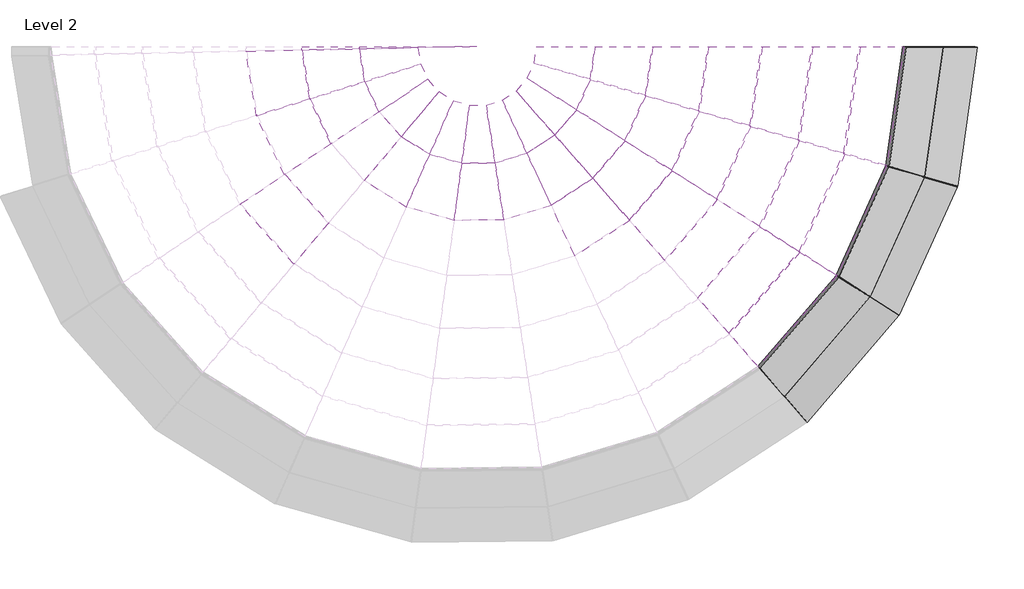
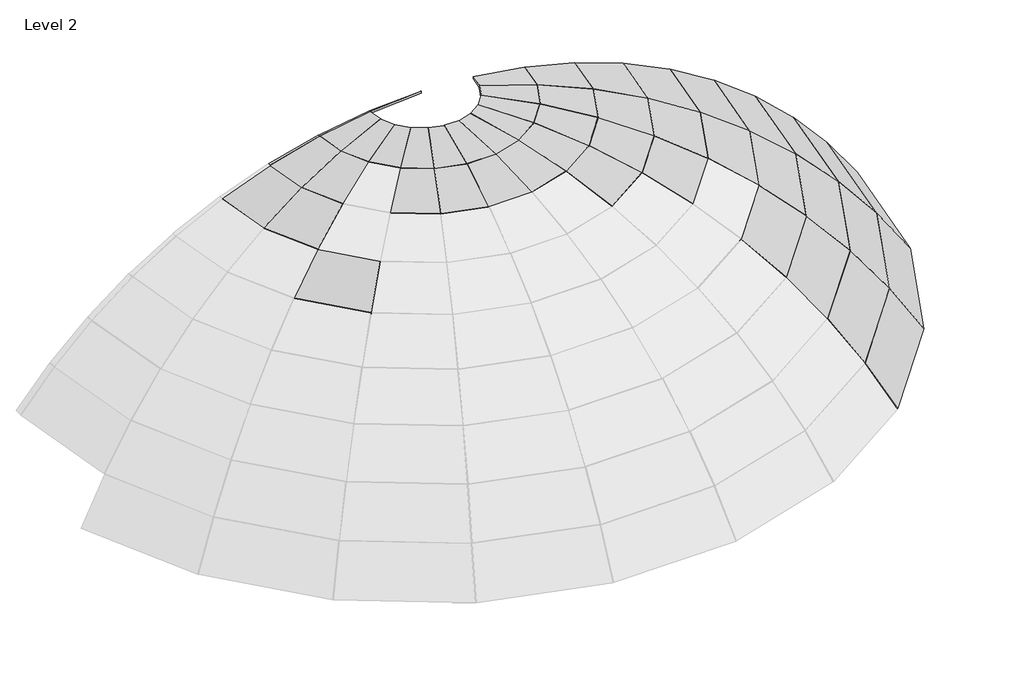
# One storey, part 2 of 2: 48 plates.
"""IFC4 building model written with IfcOpenShell, lengths in millimetres."""

import ifcopenshell
import ifcopenshell.guid

model = None  # the IFC model being written
_history = None  # IfcOwnerHistory: only IFC2X3 demands one
_inside = {}  # id of a spatial element -> (the spatial element, [elements in it])
_under = {}  # id of a project, library or spatial element -> (it, [spatial elements below it])
_declared = {}  # id of a project -> (the project, [libraries it declares])
_typed = {}  # id of a type object -> (the type object, [elements of that type])
_made_of = {}  # id of a material, layer set ... -> (it, [elements and type objects made of it])


def new_model(schema):
    """Start an empty IFC model of exactly this schema.

    Asked for "IFC4X3", IfcOpenShell would pick the latest addendum, in which some entities
    have other attributes; the version numbers below select the first issue.
    IFC2X3 requires an IfcOwnerHistory on every rooted entity: one is made here for all.
    """
    global model, _history
    if schema == "IFC4X3":
        model = ifcopenshell.file(schema_version=(4, 3, 0, 0))
    else:
        model = ifcopenshell.file(schema=schema)
    _inside.clear()
    _under.clear()
    _declared.clear()
    _typed.clear()
    _made_of.clear()
    _history = None
    if model.schema == "IFC2X3":
        org = make("IfcOrganization", Name="unknown")
        user = make(
            "IfcPersonAndOrganization",
            ThePerson=make("IfcPerson", FamilyName="unknown"),
            TheOrganization=org,
        )
        app = make(
            "IfcApplication",
            ApplicationDeveloper=org,
            Version="unknown",
            ApplicationFullName="unknown",
            ApplicationIdentifier="unknown",
        )
        _history = make(
            "IfcOwnerHistory",
            OwningUser=user,
            OwningApplication=app,
            ChangeAction="ADDED",
            CreationDate=0,
        )
    return model


def make(cls, **values):
    """One entity of the class cls with the attributes given. An attribute that is None is left unset."""
    return model.create_entity(
        cls, **{name: value for name, value in values.items() if value is not None}
    )


def rooted(cls, **values):
    """An entity with a GlobalId (a new one), such as an element, a storey or a relation."""
    return make(cls, GlobalId=ifcopenshell.guid.new(), OwnerHistory=_history, **values)


def si_unit(unit_type, name, prefix=None):
    """IfcSIUnit, for example si_unit("LENGTHUNIT", "METRE", prefix="MILLI")."""
    return make("IfcSIUnit", UnitType=unit_type, Prefix=prefix, Name=name)


def assignment(units):
    """IfcUnitAssignment: the units of a project."""
    return None if units is None else make("IfcUnitAssignment", Units=units)


def point(xyz):
    """IfcCartesianPoint."""
    return None if xyz is None else make("IfcCartesianPoint", Coordinates=xyz)


def direction(xyz):
    """IfcDirection."""
    return None if xyz is None else make("IfcDirection", DirectionRatios=xyz)


def frame(location, z_axis=None, x_axis=None):
    """IfcAxis2Placement3D, a coordinate frame: its origin and axes. An axis left out is left unset."""
    return make(
        "IfcAxis2Placement3D",
        Location=point(location),
        Axis=direction(z_axis),
        RefDirection=direction(x_axis),
    )


def origin():
    """The frame at (0, 0, 0) with its axes left unset."""
    return frame((0.0, 0.0, 0.0))


def place(relative_to, where):
    """IfcLocalPlacement: puts the frame where relative to a parent placement (None: the world)."""
    return make(
        "IfcLocalPlacement", PlacementRelTo=relative_to, RelativePlacement=where
    )


def context(
    kind, dimensions, precision=None, world=None, true_north=None, identifier=None
):
    """IfcGeometricRepresentationContext, for example the 3D "Model" context."""
    return make(
        "IfcGeometricRepresentationContext",
        ContextIdentifier=identifier,
        ContextType=kind,
        CoordinateSpaceDimension=dimensions,
        Precision=precision,
        WorldCoordinateSystem=world,
        TrueNorth=true_north,
    )


def project(units=None, contexts=None):
    """IfcProject with its units and contexts."""
    return rooted(
        "IfcProject",
        Name="project",
        RepresentationContexts=contexts,
        UnitsInContext=assignment(units),
    )


def spatial(cls, under=None, at=None, **own):
    """A site, building, storey or space (cls), placed at a placement, below another one or the project."""
    s = rooted(cls, ObjectPlacement=at, **own)
    if under is not None:
        _under.setdefault(under.id(), (under, []))[1].append(s)
    return s


def polyline(points):
    """IfcPolyline through the points."""
    return make("IfcPolyline", Points=[point(p) for p in points])


def outline(outer, holes=None, kind="AREA"):
    """IfcArbitraryClosedProfileDef: a profile drawn as a closed curve; with holes, ...WithVoids."""
    if holes is None:
        return make("IfcArbitraryClosedProfileDef", ProfileType=kind, OuterCurve=outer)
    return make(
        "IfcArbitraryProfileDefWithVoids",
        ProfileType=kind,
        OuterCurve=outer,
        InnerCurves=holes,
    )


def extrude(swept, where, along, depth):
    """IfcExtrudedAreaSolid: the profile swept, set in the frame where, extruded along a direction by depth."""
    return make(
        "IfcExtrudedAreaSolid",
        SweptArea=swept,
        Position=where,
        ExtrudedDirection=direction(along),
        Depth=depth,
    )


def shape(context_of_items, identifier, shape_type, items):
    """IfcShapeRepresentation: the items that make up one representation, for example the "Body"."""
    return make(
        "IfcShapeRepresentation",
        ContextOfItems=context_of_items,
        RepresentationIdentifier=identifier,
        RepresentationType=shape_type,
        Items=items,
    )


def source(mapping_origin, context_of_items, identifier, shape_type, items):
    """IfcRepresentationMap: a shape defined once, which mapped items show again and again."""
    return make(
        "IfcRepresentationMap",
        MappingOrigin=mapping_origin,
        MappedRepresentation=shape(context_of_items, identifier, shape_type, items),
    )


def transform(
    local_origin,
    x_axis=None,
    y_axis=None,
    z_axis=None,
    scale=None,
    scale2=None,
    scale3=None,
    uniform=True,
):
    """IfcCartesianTransformationOperator3D, or its non-uniform kind. x_axis, y_axis, z_axis: its Axis1, 2, 3."""
    if uniform:
        return make(
            "IfcCartesianTransformationOperator3D",
            Axis1=direction(x_axis),
            Axis2=direction(y_axis),
            LocalOrigin=point(local_origin),
            Scale=scale,
            Axis3=direction(z_axis),
        )
    return make(
        "IfcCartesianTransformationOperator3DnonUniform",
        Axis1=direction(x_axis),
        Axis2=direction(y_axis),
        LocalOrigin=point(local_origin),
        Scale=scale,
        Axis3=direction(z_axis),
        Scale2=scale2,
        Scale3=scale3,
    )


def mapped(mapping_source, mapping_target):
    """IfcMappedItem: shows the shape of a source again, moved by a transform."""
    return make(
        "IfcMappedItem", MappingSource=mapping_source, MappingTarget=mapping_target
    )


def made_of(thing, what):
    """Note that an element or type object is made of a material, layer set ...; save() writes the relation."""
    if what is not None:
        _made_of.setdefault(what.id(), (what, []))[1].append(thing)
    return thing


def element(
    cls,
    number,
    at=None,
    inside=None,
    cuts=None,
    type_object=None,
    material=None,
    context=None,
    identifier="Body",
    shape_type=None,
    held_by="IfcProductDefinitionShape",
    body=None,
    shapes=None,
    **own,
):
    """One element of the class cls, such as IfcWall. Its Tag is "e" and its number.

    at: its placement. inside: the storey or other place that contains it. cuts: it is an
    opening in that element (IfcRelVoidsElement). A single representation is given by context,
    identifier, shape_type and body (its items); several are given by shapes. held_by: the class
    of the entity that holds the representations. save() writes the other relations.
    """
    e = rooted(cls, Tag="e%d" % number, ObjectPlacement=at, **own)
    if body is not None:
        shapes = [shape(context, identifier, shape_type, body)]
    if shapes is not None:
        e.Representation = make(held_by, Representations=shapes)
    if inside is not None:
        _inside.setdefault(inside.id(), (inside, []))[1].append(e)
    if cuts is not None:
        rooted(
            "IfcRelVoidsElement", RelatingBuildingElement=cuts, RelatedOpeningElement=e
        )
    if type_object is not None:
        _typed.setdefault(type_object.id(), (type_object, []))[1].append(e)
    return made_of(e, material)


def aggregate(whole, parts):
    """IfcRelAggregates: a whole, such as a stair, and the parts it consists of."""
    return rooted("IfcRelAggregates", RelatingObject=whole, RelatedObjects=parts)


def save(model, path):
    """Write the relations noted so far, then the file.

    IfcRelAggregates (storeys below a building ...), IfcRelContainedInSpatialStructure (elements
    in a storey), IfcRelDefinesByType, IfcRelAssociatesMaterial and IfcRelDeclares: one each for
    every whole, place, type object, material and project.
    """
    for whole, parts in _under.values():
        aggregate(whole, parts)
    for where, things in _inside.values():
        rooted(
            "IfcRelContainedInSpatialStructure",
            RelatedElements=things,
            RelatingStructure=where,
        )
    for kind, things in _typed.values():
        rooted("IfcRelDefinesByType", RelatedObjects=things, RelatingType=kind)
    for what, things in _made_of.values():
        rooted("IfcRelAssociatesMaterial", RelatedObjects=things, RelatingMaterial=what)
    for by, libraries in _declared.values():
        rooted("IfcRelDeclares", RelatingContext=by, RelatedDefinitions=libraries)
    model.write(path)


def system_panel_glazed_b7e76020(model_context):
    return source(origin(), model_context, "Body", "SweptSolid", [
        extrude(outline(polyline([(0.0, -86.1026283), (0.0, 86.1026283), (603.610826, 171.3442302), (603.610826, -171.3442302), (0.0, -86.1026283)])), frame((0.0, -44.45, 0.0), z_axis=(0.0, 1.0, 0.0), x_axis=(0.0, 0.0, 1.0)), (0.0, 0.0, 1.0), 25.4),
    ])


def system_panel_glazed_541d1e19(model_context):
    return source(origin(), model_context, "Body", "SweptSolid", [
        extrude(outline(polyline([(0.0, -6.0448817), (0.0, 6.0448817), (609.5706248, 12.0293146), (609.5706248, -12.0293146), (0.0, -6.0448817)])), frame((0.0, -44.45, 0.0), z_axis=(0.0, 1.0, 0.0), x_axis=(0.0, 0.0, 1.0)), (0.0, 0.0, 1.0), 25.4),
    ])


def system_panel_glazed_13021561(model_context):
    return source(origin(), model_context, "Body", "SweptSolid", [
        extrude(outline(polyline([(0.0, -171.3442302), (0.0, 171.3442302), (603.850318, 254.8723899), (603.850318, -254.8723899), (0.0, -171.3442302)])), frame((0.0, -44.45, 0.0), z_axis=(0.0, 1.0, 0.0), x_axis=(0.0, 0.0, 1.0)), (0.0, 0.0, 1.0), 25.4),
    ])


def system_panel_glazed_939abe30(model_context):
    return source(origin(), model_context, "Body", "SweptSolid", [
        extrude(outline(polyline([(0.0, -12.0293146), (0.0, 12.0293146), (609.5717939, 17.8934544), (609.5717939, -17.8934544), (0.0, -12.0293146)])), frame((0.0, -44.45, 0.0), z_axis=(0.0, 1.0, 0.0), x_axis=(0.0, 0.0, 1.0)), (0.0, 0.0, 1.0), 25.4),
    ])


def system_panel_glazed_061b48de(model_context):
    return source(origin(), model_context, "Body", "SweptSolid", [
        extrude(outline(polyline([(0.0, -254.8723899), (0.0, 254.8723899), (604.1973941, 335.8518257), (604.1973941, -335.8518257), (0.0, -254.8723899)])), frame((0.0, -44.45, 0.0), z_axis=(0.0, 1.0, 0.0), x_axis=(0.0, 0.0, 1.0)), (0.0, 0.0, 1.0), 25.4),
    ])


def system_panel_glazed_37435722(model_context):
    return source(origin(), model_context, "Body", "SweptSolid", [
        extrude(outline(polyline([(0.0, -335.8518257), (0.0, 335.8518257), (604.6380348, 413.4727432), (604.6380348, -413.4727432), (0.0, -335.8518257)])), frame((0.0, -44.45, 0.0), z_axis=(0.0, 1.0, 0.0), x_axis=(0.0, 0.0, 1.0)), (0.0, 0.0, 1.0), 25.4),
    ])


def system_panel_glazed_72d94749(model_context):
    return source(origin(), model_context, "Body", "SweptSolid", [
        extrude(outline(polyline([(0.0, -413.4727432), (0.0, 413.4727432), (605.154476, 486.9589333), (605.154476, -486.9589333), (0.0, -413.4727432)])), frame((0.0, -44.45, 0.0), z_axis=(0.0, 1.0, 0.0), x_axis=(0.0, 0.0, 1.0)), (0.0, 0.0, 1.0), 25.4),
    ])


def system_panel_glazed_bedb6522(model_context):
    return source(origin(), model_context, "Body", "SweptSolid", [
        extrude(outline(polyline([(0.0, -486.9589333), (0.0, 486.9589333), (605.7259464, 555.575534), (605.7259464, -555.575534), (0.0, -486.9589333)])), frame((0.0, -44.45, 0.0), z_axis=(0.0, 1.0, 0.0), x_axis=(0.0, 0.0, 1.0)), (0.0, 0.0, 1.0), 25.4),
    ])


def system_panel_glazed_fface929(model_context):
    return source(origin(), model_context, "Body", "SweptSolid", [
        extrude(outline(polyline([(0.0, -555.575534), (0.0, 555.575534), (606.3295224, 618.6363794), (606.3295224, -618.6363794), (0.0, -555.575534)])), frame((0.0, -44.45, 0.0), z_axis=(0.0, 1.0, 0.0), x_axis=(0.0, 0.0, 1.0)), (0.0, 0.0, 1.0), 25.4),
    ])


def system_panel_glazed_fbbb24ac(model_context):
    return source(origin(), model_context, "Body", "SweptSolid", [
        extrude(outline(polyline([(0.0, -618.6363794), (0.0, 618.6363794), (606.9410625, 675.510861), (606.9410625, -675.510861), (0.0, -618.6363794)])), frame((0.0, -44.45, 0.0), z_axis=(0.0, 1.0, 0.0), x_axis=(0.0, 0.0, 1.0)), (0.0, 0.0, 1.0), 25.4),
    ])


def system_panel_glazed_294e71e8(model_context):
    return source(origin(), model_context, "Body", "SweptSolid", [
        extrude(outline(polyline([(0.0, -675.510861), (0.0, 675.510861), (607.5361787, 725.630234), (607.5361787, -725.630234), (0.0, -675.510861)])), frame((0.0, -44.45, 0.0), z_axis=(0.0, 1.0, 0.0), x_axis=(0.0, 0.0, 1.0)), (0.0, 0.0, 1.0), 25.4),
    ])


def system_panel_glazed_e5d92528(model_context):
    return source(origin(), model_context, "Body", "SweptSolid", [
        extrude(outline(polyline([(0.0, -303.4116416), (12.053882, 303.5318259), (12.089166, -303.5318259), (0.0, -303.4116416)])), frame((0.0, -44.45, 0.0), z_axis=(0.0, 1.0, 0.0), x_axis=(0.0, 0.0, 1.0)), (0.0, 0.0, 1.0), 25.4),
    ])


model = new_model("IFC4")

# Units and contexts
model_context = context("Model", 3, world=origin())
ifc_project = project(units=[si_unit("LENGTHUNIT", "METRE", prefix="MILLI")], contexts=[model_context])

# Site, building, storey
site = spatial("IfcSite", under=ifc_project)
building = spatial("IfcBuilding", under=site)
storey = spatial("IfcBuildingStorey", under=building, Name="Level 2", Elevation=3048.0)

# Plates
placement = place(None, origin())
system_panel_glazed_shape = system_panel_glazed_b7e76020(model_context)
element("IfcPlate", 1, ObjectType="System Panel : Glazed", at=placement, inside=storey, context=model_context, shape_type="MappedRepresentation", body=[
    mapped(system_panel_glazed_shape, transform((6382.7257992, 3516.9033936, 6065.52), x_axis=(-0.14142135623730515, -0.9899494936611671, 0.0), y_axis=(-0.14946591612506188, 0.021352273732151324, -0.988536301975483), z_axis=(0.9786010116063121, -0.139800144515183, -0.15098337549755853))),
])
element("IfcPlate", 2, ObjectType="System Panel : Glazed", at=placement, inside=storey, context=model_context, shape_type="MappedRepresentation", body=[
    mapped(system_panel_glazed_shape, transform((6334.9929374, 3353.2478674, 6065.52), x_axis=(-0.4129503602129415, -0.9107535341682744, 0.0), y_axis=(-0.13750864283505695, 0.06234863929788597, -0.9885363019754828), z_axis=(0.9003129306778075, -0.4082164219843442, -0.15098337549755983))),
])
element("IfcPlate", 3, ObjectType="System Panel : Glazed", at=placement, inside=storey, context=model_context, shape_type="MappedRepresentation", body=[
    mapped(system_panel_glazed_shape, transform((6243.3458427, 3209.5037635, 6065.52), x_axis=(-0.6514433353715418, -0.7586972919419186, 0.0), y_axis=(-0.11455067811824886, 0.09835711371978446, -0.9885363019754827), z_axis=(0.7499998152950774, -0.6439753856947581, -0.15098337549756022))),
])
element("IfcPlate", 4, ObjectType="System Panel : Glazed", at=placement, inside=storey, context=model_context, shape_type="MappedRepresentation", body=[
    mapped(system_panel_glazed_shape, transform((6115.1162827, 3097.1706103, 6065.52), x_axis=(-0.8378208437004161, -0.5459452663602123, 0.0), y_axis=(-0.08242865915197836, 0.12649701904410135, -0.9885363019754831), z_axis=(0.5396867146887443, -0.8282163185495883, -0.15098337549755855))),
])
element("IfcPlate", 5, ObjectType="System Panel : Glazed", at=placement, inside=storey, context=model_context, shape_type="MappedRepresentation", body=[
    mapped(system_panel_glazed_shape, transform((5960.5626222, 3025.2350601, 6065.52), x_axis=(-0.9571726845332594, -0.2895176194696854, 0.0), y_axis=(-0.04371234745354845, 0.1445171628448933, -0.9885363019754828), z_axis=(0.28619867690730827, -0.9461999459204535, -0.15098337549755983))),
])
element("IfcPlate", 6, ObjectType="System Panel : Glazed", at=placement, inside=storey, context=model_context, shape_type="MappedRepresentation", body=[
    mapped(system_panel_glazed_shape, transform((5792.0491541, 2999.4519567, 6065.52), x_axis=(-0.999950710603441, -0.009928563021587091, 0.0), y_axis=(-0.0014990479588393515, 0.15097593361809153, -0.9885363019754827), z_axis=(0.009814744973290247, -0.9884875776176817, -0.15098337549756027))),
])
element("IfcPlate", 7, ObjectType="System Panel : Glazed", at=placement, inside=storey, context=model_context, shape_type="MappedRepresentation", body=[
    mapped(system_panel_glazed_shape, transform((5623.0569558, 3021.8839486, 6065.52), x_axis=(-0.962732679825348, 0.27045477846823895, 0.0), y_axis=(0.040834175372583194, 0.14535662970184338, -0.9885363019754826), z_axis=(-0.26735436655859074, -0.9516962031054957, -0.15098337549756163))),
])
element("IfcPlate", 8, ObjectType="System Panel : Glazed", at=placement, inside=storey, context=model_context, shape_type="MappedRepresentation", body=[
    mapped(system_panel_glazed_shape, transform((5467.1054031, 3090.7364763, 6065.52), x_axis=(-0.8484960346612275, 0.5292017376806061, 0.0), y_axis=(0.07990066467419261, 0.128108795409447, -0.9885363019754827), z_axis=(-0.5231351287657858, -0.8387691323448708, -0.15098337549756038))),
])
element("IfcPlate", 9, ObjectType="System Panel : Glazed", at=placement, inside=storey, context=model_context, shape_type="MappedRepresentation", body=[
    mapped(system_panel_glazed_shape, transform((5336.6706203, 3200.5013377, 6065.52), x_axis=(-0.6663797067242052, 0.7456125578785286, 0.0), y_axis=(0.11257510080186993, 0.10061225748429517, -0.9885363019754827), z_axis=(-0.7370650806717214, -0.6587405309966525, -0.1509833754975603))),
])
element("IfcPlate", 10, ObjectType="System Panel : Glazed", at=placement, inside=storey, context=model_context, shape_type="MappedRepresentation", body=[
    mapped(system_panel_glazed_shape, transform((5242.18739, 3342.3973438, 6065.52), x_axis=(-0.43095300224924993, 0.9023743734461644, 0.0), y_axis=(0.1362435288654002, 0.06506673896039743, -0.9885363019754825), z_axis=(-0.8920298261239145, -0.42601268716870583, -0.15098337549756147))),
])
element("IfcPlate", 11, ObjectType="System Panel : Glazed", at=placement, inside=storey, context=model_context, shape_type="MappedRepresentation", body=[
    mapped(system_panel_glazed_shape, transform((5191.2143706, 3505.0728142, 6065.52), x_axis=(-0.1610500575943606, 0.9869462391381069, 0.0), y_axis=(0.1490124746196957, 0.02431588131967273, -0.9885363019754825), z_axis=(-0.9756321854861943, -0.1592038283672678, -0.1509833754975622))),
])
system_panel_glazed_2_shape = system_panel_glazed_541d1e19(model_context)
element("IfcPlate", 12, ObjectType="System Panel : Glazed", at=placement, inside=storey, context=model_context, shape_type="MappedRepresentation", body=[
    mapped(system_panel_glazed_2_shape, transform((5177.2875203, 3596.0960631, 6065.52), x_axis=(-0.009928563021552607, 0.9999507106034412, 0.0), y_axis=(0.14949983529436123, 0.0014843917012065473, -0.9887606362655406), z_axis=(-0.9887119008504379, -0.009816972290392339, -0.14950720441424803))),
])
system_panel_glazed_3_shape = system_panel_glazed_13021561(model_context)
element("IfcPlate", 13, ObjectType="System Panel : Glazed", at=placement, inside=storey, context=model_context, shape_type="MappedRepresentation", body=[
    mapped(system_panel_glazed_3_shape, transform((6973.4199642, 3432.5185129, 5974.3848), x_axis=(-0.1414213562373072, -0.989949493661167, 0.0), y_axis=(-0.24735043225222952, 0.035335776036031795, -0.9682815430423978), z_axis=(0.9585498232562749, -0.13693568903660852, -0.24986166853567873))),
])
element("IfcPlate", 14, ObjectType="System Panel : Glazed", at=placement, inside=storey, context=model_context, shape_type="MappedRepresentation", body=[
    mapped(system_panel_glazed_3_shape, transform((6878.4315691, 3106.8440157, 5974.3848), x_axis=(-0.4129503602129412, -0.9107535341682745, 0.0), y_axis=(-0.22756239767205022, 0.10318046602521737, -0.9682815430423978), z_axis=(0.8818658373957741, -0.39985221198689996, -0.24986166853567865))),
])
element("IfcPlate", 15, ObjectType="System Panel : Glazed", at=placement, inside=storey, context=model_context, shape_type="MappedRepresentation", body=[
    mapped(system_panel_glazed_3_shape, transform((6696.0538507, 2820.793249, 5974.3848), x_axis=(-0.6514433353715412, -0.758697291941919, 0.0), y_axis=(-0.18956937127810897, 0.16277071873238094, -0.9682815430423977), z_axis=(0.7346325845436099, -0.6307805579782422, -0.24986166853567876))),
])
element("IfcPlate", 16, ObjectType="System Panel : Glazed", at=placement, inside=storey, context=model_context, shape_type="MappedRepresentation", body=[
    mapped(system_panel_glazed_3_shape, transform((6440.8770264, 2597.2502742, 5974.3848), x_axis=(-0.837820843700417, -0.5459452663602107, 0.0), y_axis=(-0.13641079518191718, 0.2093393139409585, -0.9682815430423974), z_axis=(0.5286287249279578, -0.8112464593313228, -0.24986166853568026))),
])
element("IfcPlate", 17, ObjectType="System Panel : Glazed", at=placement, inside=storey, context=model_context, shape_type="MappedRepresentation", body=[
    mapped(system_panel_glazed_3_shape, transform((6133.315242, 2454.0985291, 5974.3848), x_axis=(-0.9571726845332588, -0.2895176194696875, 0.0), y_axis=(-0.07233935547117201, 0.23916076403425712, -0.9682815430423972), z_axis=(0.2803345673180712, -0.9268126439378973, -0.24986166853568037))),
])
element("IfcPlate", 18, ObjectType="System Panel : Glazed", at=placement, inside=storey, context=model_context, shape_type="MappedRepresentation", body=[
    mapped(system_panel_glazed_3_shape, transform((5797.9734404, 2402.7901535, 5974.3848), x_axis=(-0.9999507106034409, -0.009928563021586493, 0.0), y_axis=(-0.0024807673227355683, 0.24984935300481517, -0.9682815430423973), z_axis=(0.009613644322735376, -0.9682338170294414, -0.24986166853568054))),
])
element("IfcPlate", 19, ObjectType="System Panel : Glazed", at=placement, inside=storey, context=model_context, shape_type="MappedRepresentation", body=[
    mapped(system_panel_glazed_3_shape, transform((5461.6789657, 2447.4298173, 5974.3848), x_axis=(-0.9627326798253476, 0.2704547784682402, 0.0), y_axis=(0.06757628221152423, 0.2405499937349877, -0.9682815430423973), z_axis=(-0.2618763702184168, -0.9321962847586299, -0.24986166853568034))),
])
element("IfcPlate", 20, ObjectType="System Panel : Glazed", at=placement, inside=storey, context=model_context, shape_type="MappedRepresentation", body=[
    mapped(system_panel_glazed_3_shape, transform((5151.3353759, 2584.4463475, 5974.3848), x_axis=(-0.8484960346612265, 0.529201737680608, 0.0), y_axis=(0.13222722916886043, 0.2120066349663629, -0.9682815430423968), z_axis=(-0.5124162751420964, -0.8215830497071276, -0.24986166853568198))),
])
element("IfcPlate", 21, ObjectType="System Panel : Glazed", at=placement, inside=storey, context=model_context, shape_type="MappedRepresentation", body=[
    mapped(system_panel_glazed_3_shape, transform((4703.7485298, 3085.2514738, 5974.3848), x_axis=(-0.43095300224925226, 0.9023743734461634, 0.0), y_axis=(0.22546876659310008, 0.10767863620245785, -0.9682815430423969), z_axis=(-0.873752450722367, -0.41728383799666, -0.24986166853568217))),
])
element("IfcPlate", 22, ObjectType="System Panel : Glazed", at=placement, inside=storey, context=model_context, shape_type="MappedRepresentation", body=[
    mapped(system_panel_glazed_3_shape, transform((4602.3122212, 3408.9756599, 5974.3848), x_axis=(-0.16105005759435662, 0.9869462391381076, 0.0), y_axis=(0.24660003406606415, 0.04024023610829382, -0.9682815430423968), z_axis=(-0.955641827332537, -0.15594179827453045, -0.24986166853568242))),
])
system_panel_glazed_4_shape = system_panel_glazed_939abe30(model_context)
element("IfcPlate", 23, ObjectType="System Panel : Glazed", at=placement, inside=storey, context=model_context, shape_type="MappedRepresentation", body=[
    mapped(system_panel_glazed_4_shape, transform((4574.5977892, 3590.1119252, 5974.3848), x_axis=(-0.009928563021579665, 0.999950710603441, 0.0), y_axis=(0.2475042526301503, 0.002457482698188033, -0.9688836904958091), z_axis=(-0.9688359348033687, -0.009619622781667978, -0.24751645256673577))),
])
system_panel_glazed_5_shape = system_panel_glazed_061b48de(model_context)
element("IfcPlate", 24, ObjectType="System Panel : Glazed", at=placement, inside=storey, context=model_context, shape_type="MappedRepresentation", body=[
    mapped(system_panel_glazed_5_shape, transform((7552.2405797, 3349.8298536, 5823.505752), x_axis=(-0.14142135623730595, -0.989949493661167, 0.0), y_axis=(-0.3426237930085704, 0.04894625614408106, -0.9381967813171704), z_axis=(0.9287674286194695, -0.1326810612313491, -0.3461022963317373))),
])
element("IfcPlate", 25, ObjectType="System Panel : Glazed", at=placement, inside=storey, context=model_context, shape_type="MappedRepresentation", body=[
    mapped(system_panel_glazed_5_shape, transform((7410.9465355, 2865.3931304, 5823.505752), x_axis=(-0.41295036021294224, -0.910753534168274, 0.0), y_axis=(-0.3152138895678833, 0.14292306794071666, -0.938196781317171), z_axis=(0.8544660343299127, -0.38742869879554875, -0.34610229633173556))),
])
element("IfcPlate", 26, ObjectType="System Panel : Glazed", at=placement, inside=storey, context=model_context, shape_type="MappedRepresentation", body=[
    mapped(system_panel_glazed_5_shape, transform((7139.6619705, 2439.8962085, 5823.505752), x_axis=(-0.6514433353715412, -0.7586972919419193, 0.0), y_axis=(-0.26258687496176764, 0.22546603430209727, -0.9381967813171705), z_axis=(0.7118073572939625, -0.6111820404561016, -0.346102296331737))),
])
element("IfcPlate", 27, ObjectType="System Panel : Glazed", at=placement, inside=storey, context=model_context, shape_type="MappedRepresentation", body=[
    mapped(system_panel_glazed_5_shape, transform((6760.08965, 2107.3788417, 5823.505752), x_axis=(-0.8378208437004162, -0.5459452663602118, 0.0), y_axis=(-0.18895291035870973, 0.28997171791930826, -0.9381967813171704), z_axis=(0.5122040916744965, -0.7860408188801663, -0.34610229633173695))),
])
element("IfcPlate", 28, ObjectType="System Panel : Glazed", at=placement, inside=storey, context=model_context, shape_type="MappedRepresentation", body=[
    mapped(system_panel_glazed_5_shape, transform((4176.1328346, 2833.2744956, 5823.505752), x_axis=(-0.4309530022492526, 0.9023743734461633, 0.0), y_axis=(0.31231384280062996, 0.1491538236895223, -0.9381967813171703), z_axis=(-0.8466047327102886, -0.4043187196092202, -0.34610229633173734))),
])
element("IfcPlate", 29, ObjectType="System Panel : Glazed", at=placement, inside=storey, context=model_context, shape_type="MappedRepresentation", body=[
    mapped(system_panel_glazed_5_shape, transform((4025.2475999, 3314.8101554, 5823.505752), x_axis=(-0.16105005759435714, 0.9869462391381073, 0.0), y_axis=(0.34158435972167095, 0.05573979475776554, -0.9381967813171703), z_axis=(-0.9259497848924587, -0.1510966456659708, -0.34610229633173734))),
])
system_panel_glazed_6_shape = system_panel_glazed_37435722(model_context)
element("IfcPlate", 30, ObjectType="System Panel : Glazed", at=placement, inside=storey, context=model_context, shape_type="MappedRepresentation", body=[
    mapped(system_panel_glazed_6_shape, transform((8113.3994398, 3269.6643021, 5614.3916465), x_axis=(-0.141421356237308, -0.9899494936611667, 0.0), y_axis=(-0.4342962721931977, 0.06204232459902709, -0.8986309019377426), z_axis=(0.8895992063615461, -0.12708560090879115, -0.4387054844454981))),
])
element("IfcPlate", 31, ObjectType="System Panel : Glazed", at=placement, inside=storey, context=model_context, shape_type="MappedRepresentation", body=[
    mapped(system_panel_glazed_6_shape, transform((7927.2126867, 2631.3097202, 5614.3916465), x_axis=(-0.41295036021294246, -0.9107535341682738, 0.0), y_axis=(-0.39955257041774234, 0.18116358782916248, -0.8986309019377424), z_axis=(0.8184312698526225, -0.37108995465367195, -0.43870548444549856))),
])
element("IfcPlate", 32, ObjectType="System Panel : Glazed", at=placement, inside=storey, context=model_context, shape_type="MappedRepresentation", body=[
    mapped(system_panel_glazed_6_shape, transform((7569.7341209, 2070.6216124, 5614.3916465), x_axis=(-0.6514433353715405, -0.7586972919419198, 0.0), y_axis=(-0.3328446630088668, 0.2857917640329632, -0.8986309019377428), z_axis=(0.6817888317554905, -0.5854071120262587, -0.43870548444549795))),
])
element("IfcPlate", 33, ObjectType="System Panel : Glazed", at=placement, inside=storey, context=model_context, shape_type="MappedRepresentation", body=[
    mapped(system_panel_glazed_6_shape, transform((4033.1576549, 2035.5067593, 5614.3916465), x_axis=(-0.6663797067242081, 0.7456125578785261, 0.0), y_axis=(0.32710431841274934, 0.29234443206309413, -0.898630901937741), z_axis=(-0.6700304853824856, -0.5988293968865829, -0.4387054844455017))),
])
system_panel_glazed_7_shape = system_panel_glazed_72d94749(model_context)
element("IfcPlate", 34, ObjectType="System Panel : Glazed", at=placement, inside=storey, context=model_context, shape_type="MappedRepresentation", body=[
    mapped(system_panel_glazed_7_shape, transform((8651.2849557, 3192.8235141, 5349.1336245), x_axis=(-0.14142135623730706, -0.989949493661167, 0.0), y_axis=(-0.5214301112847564, 0.0744900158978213, -0.8500363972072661), z_axis=(0.8414931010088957, -0.12021330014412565, -0.5267239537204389))),
])
element("IfcPlate", 35, ObjectType="System Panel : Glazed", at=placement, inside=storey, context=model_context, shape_type="MappedRepresentation", body=[
    mapped(system_panel_glazed_7_shape, transform((8422.0673614, 2406.9346193, 5349.1336245), x_axis=(-0.41295036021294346, -0.9107535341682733, 0.0), y_axis=(-0.47971570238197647, 0.21751084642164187, -0.8500363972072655), z_axis=(0.7741736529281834, -0.3510228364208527, -0.5267239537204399))),
])
system_panel_glazed_8_shape = system_panel_glazed_bedb6522(model_context)
element("IfcPlate", 36, ObjectType="System Panel : Glazed", at=placement, inside=storey, context=model_context, shape_type="MappedRepresentation", body=[
    mapped(system_panel_glazed_8_shape, transform((9160.5182724, 3120.0758975, 5030.3842663), x_axis=(-0.14142135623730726, -0.9899494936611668, 0.0), y_axis=(-0.6031507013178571, 0.0861643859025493, -0.7929596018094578), z_axis=(0.7849899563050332, -0.11214142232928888, -0.6092742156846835))),
])
element("IfcPlate", 37, ObjectType="System Panel : Glazed", at=placement, inside=storey, context=model_context, shape_type="MappedRepresentation", body=[
    mapped(system_panel_glazed_8_shape, transform((8890.5620127, 2194.5115786, 5030.3842663), x_axis=(-0.41295036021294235, -0.9107535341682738, 0.0), y_axis=(-0.5548986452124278, 0.2516000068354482, -0.7929596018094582), z_axis=(0.7221907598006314, -0.32745295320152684, -0.6092742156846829))),
])
element("IfcPlate", 38, ObjectType="System Panel : Glazed", at=placement, inside=storey, context=model_context, shape_type="MappedRepresentation", body=[
    mapped(system_panel_glazed_8_shape, transform((8372.2459941, 1381.5575852, 5030.3842663), x_axis=(-0.6514433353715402, -0.75869729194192, 0.0), y_axis=(-0.46225469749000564, 0.3969076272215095, -0.7929596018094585), z_axis=(0.6016163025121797, -0.5165682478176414, -0.6092742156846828))),
])
system_panel_glazed_9_shape = system_panel_glazed_fface929(model_context)
element("IfcPlate", 39, ObjectType="System Panel : Glazed", at=placement, inside=storey, context=model_context, shape_type="MappedRepresentation", body=[
    mapped(system_panel_glazed_9_shape, transform((9636.0070565, 3052.1489283, 4661.3310654), x_axis=(-0.1414213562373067, -0.989949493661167, 0.0), y_axis=(-0.678655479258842, 0.09695078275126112, -0.7280297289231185), z_axis=(0.7207126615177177, -0.10295895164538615, -0.685545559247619))),
])
element("IfcPlate", 40, ObjectType="System Panel : Glazed", at=placement, inside=storey, context=model_context, shape_type="MappedRepresentation", body=[
    mapped(system_panel_glazed_9_shape, transform((9328.0116941, 1996.1648286, 4661.3310654), x_axis=(-0.4129503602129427, -0.9107535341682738, 0.0), y_axis=(-0.6243630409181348, 0.28309628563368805, -0.7280297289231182), z_axis=(0.6630556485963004, -0.3006401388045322, -0.6855455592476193))),
])
element("IfcPlate", 41, ObjectType="System Panel : Glazed", at=placement, inside=storey, context=model_context, shape_type="MappedRepresentation", body=[
    mapped(system_panel_glazed_9_shape, transform((8736.6605983, 1068.6587944, 4661.3310654), x_axis=(-0.6514433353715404, -0.7586972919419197, 0.0), y_axis=(-0.5201215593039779, 0.4465940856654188, -0.7280297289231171), z_axis=(0.5523541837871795, -0.4742701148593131, -0.6855455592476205))),
])
system_panel_glazed_10_shape = system_panel_glazed_fbbb24ac(model_context)
element("IfcPlate", 42, ObjectType="System Panel : Glazed", at=placement, inside=storey, context=model_context, shape_type="MappedRepresentation", body=[
    mapped(system_panel_glazed_10_shape, transform((10072.9964204, 2989.7218763, 4245.6645538), x_axis=(-0.14142135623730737, -0.9899494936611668, 0.0), y_axis=(-0.7472204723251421, 0.10674578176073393, -0.6559473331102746), z_axis=(0.6493547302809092, -0.09276496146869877, -0.754806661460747))),
])
element("IfcPlate", 43, ObjectType="System Panel : Glazed", at=placement, inside=storey, context=model_context, shape_type="MappedRepresentation", body=[
    mapped(system_panel_glazed_10_shape, transform((9730.0419089, 1813.8778368, 4245.6645538), x_axis=(-0.41295036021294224, -0.9107535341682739, 0.0), y_axis=(-0.6874428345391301, 0.31169768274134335, -0.655947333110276), z_axis=(0.5974063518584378, -0.2708736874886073, -0.7548066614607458))),
])
element("IfcPlate", 44, ObjectType="System Panel : Glazed", at=placement, inside=storey, context=model_context, shape_type="MappedRepresentation", body=[
    mapped(system_panel_glazed_10_shape, transform((9071.5692468, 781.0948222, 4245.6645538), x_axis=(-0.6514433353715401, -0.7586972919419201, 0.0), y_axis=(-0.572669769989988, 0.4917137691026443, -0.6559473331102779), z_axis=(0.4976654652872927, -0.42731251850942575, -0.754806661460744))),
])
system_panel_glazed_11_shape = system_panel_glazed_294e71e8(model_context)
element("IfcPlate", 45, ObjectType="System Panel : Glazed", at=placement, inside=storey, context=model_context, shape_type="MappedRepresentation", body=[
    mapped(system_panel_glazed_11_shape, transform((10467.1164703, 2933.419012, 3787.5413967), x_axis=(-0.14142135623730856, -0.9899494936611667, 0.0), y_axis=(-0.8082045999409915, 0.11545779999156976, -0.5774727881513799), z_axis=(0.5716688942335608, -0.08166698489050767, -0.8164099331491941))),
])
element("IfcPlate", 46, ObjectType="System Panel : Glazed", at=placement, inside=storey, context=model_context, shape_type="MappedRepresentation", body=[
    mapped(system_panel_glazed_11_shape, transform((10092.6323548, 1649.4734732, 3787.5413967), x_axis=(-0.4129503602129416, -0.9107535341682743, 0.0), y_axis=(-0.7435482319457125, 0.3371367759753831, -0.5774727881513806), z_axis=(0.5259353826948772, -0.2384675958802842, -0.8164099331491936))),
])
element("IfcPlate", 47, ObjectType="System Panel : Glazed", at=placement, inside=storey, context=model_context, shape_type="MappedRepresentation", body=[
    mapped(system_panel_glazed_11_shape, transform((9373.6228531, 521.7413082, 3787.5413967), x_axis=(-0.6514433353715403, -0.7586972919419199, 0.0), y_axis=(-0.6194080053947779, 0.531844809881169, -0.5774727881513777), z_axis=(0.4381270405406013, -0.3761907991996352, -0.8164099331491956))),
])
system_panel_glazed_12_shape = system_panel_glazed_e5d92528(model_context)
element("IfcPlate", 48, ObjectType="System Panel : Glazed", at=placement, inside=storey, context=model_context, shape_type="MappedRepresentation", body=[
    mapped(system_panel_glazed_12_shape, transform((5480.3796771, 3590.0439384, 6080.6905783), x_axis=(0.9987492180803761, -2.4853711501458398e-05, 0.049999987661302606), y_axis=(0.0499999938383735, 0.0004964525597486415, -0.9987490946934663), z_axis=(0.0, 0.999999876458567, 0.0004970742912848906))),
])

save(model, "model.ifc")
